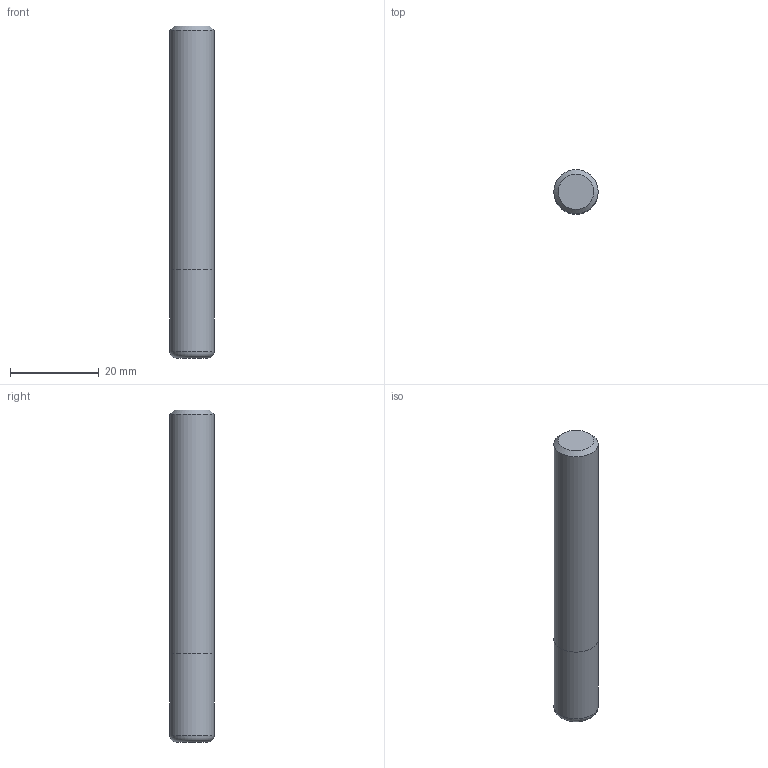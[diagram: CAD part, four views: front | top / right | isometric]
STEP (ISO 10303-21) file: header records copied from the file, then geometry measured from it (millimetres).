
FILE_DESCRIPTION((''),'2;1');
FILE_NAME('C:\Users\nsx150\AppData\Local\Temp\Mastercam 2021\Y59DX2IYLB\TEMP.step','2021-04-08T17:16:47',(''),(''),'STEP Write','Mastercam 2021 ... CNC Software, Inc.','');
FILE_SCHEMA(('AUTOMOTIVE_DESIGN'));
Length unit declared in the file: millimetre
Products named in the file (1): None
Bounding box: 10 x 10 x 75 mm (x, y, z)
Volume: 5861.7 mm3; surface area: 2629.4 mm2
Topology: 2 solids, 2 shells, 8 faces, 10 edges, 6 vertices
Faces by surface type: plane 4, cylinder 2, torus 1, cone 1
Full cylindrical faces by diameter (mm): 10 x2
Entity records: 190 total; most frequent: DIRECTION 32, CARTESIAN_POINT 22, AXIS2_PLACEMENT_3D 16, ORIENTED_EDGE 12, EDGE_LOOP 12, STYLED_ITEM 11, ADVANCED_FACE 8, FACE_BOUND 7
